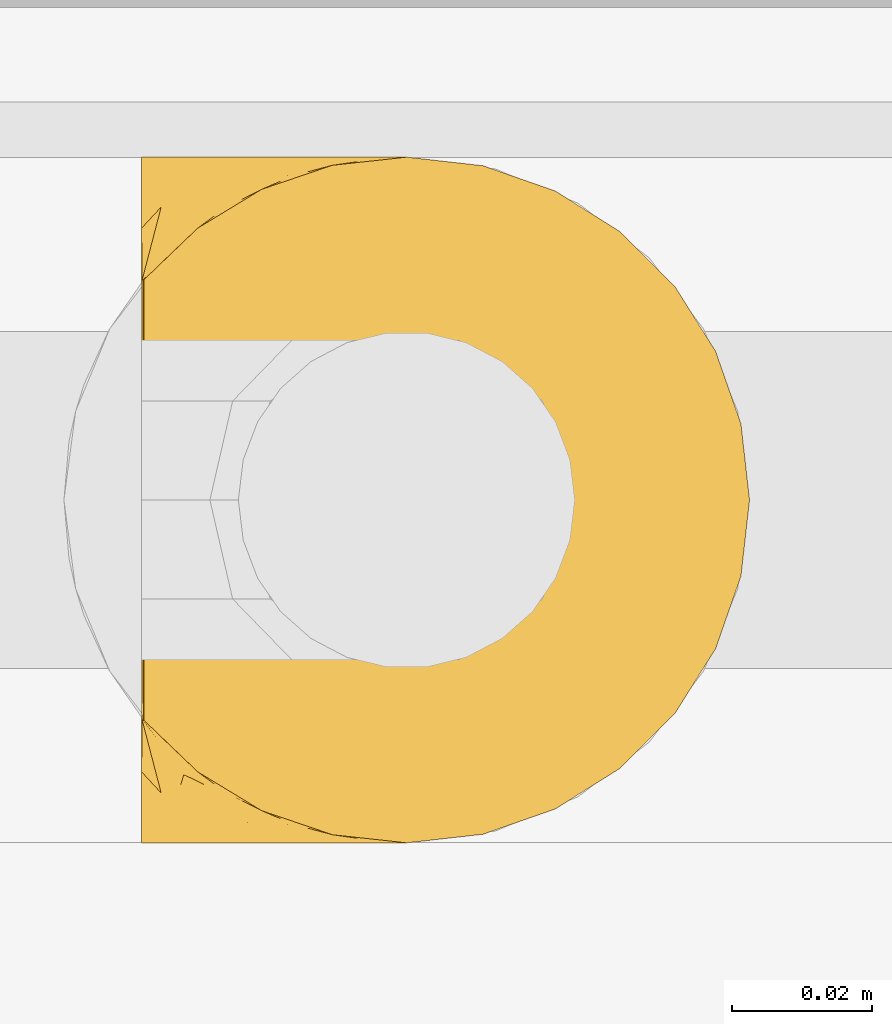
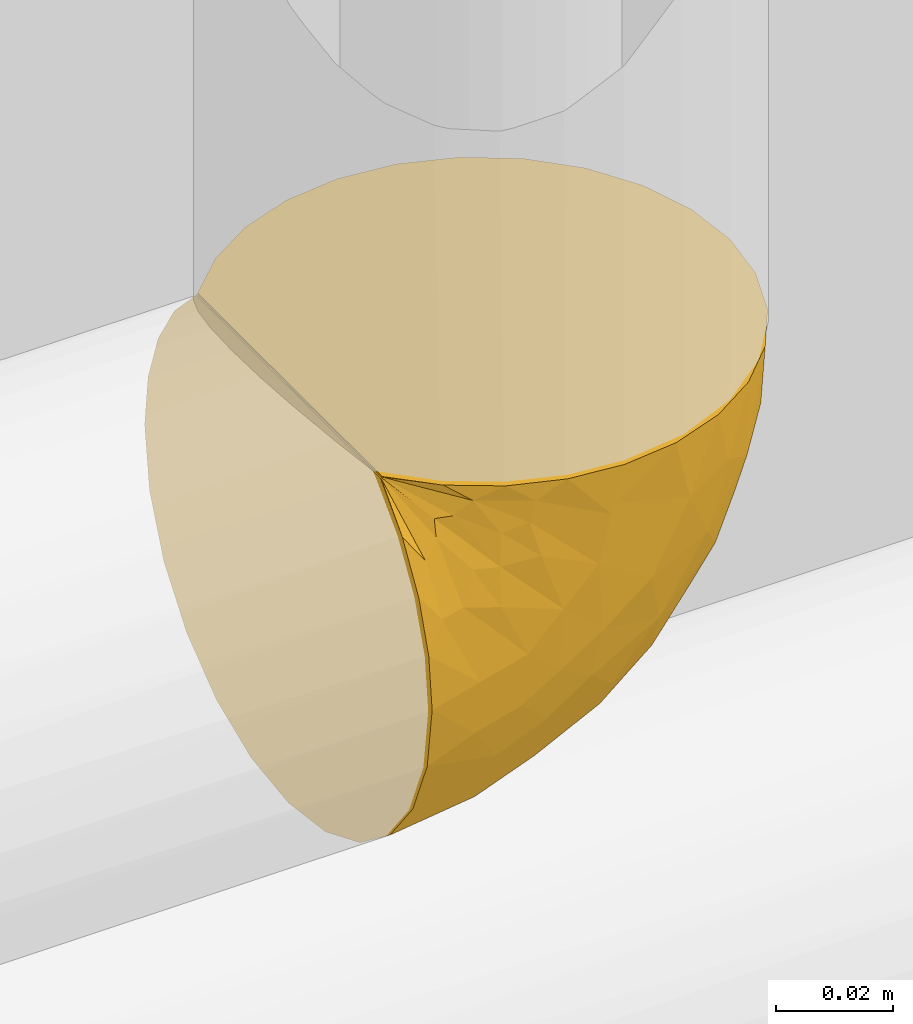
# One storey, part 55 of 94: 1 covering.
"""IFC2X3 building model written with IfcOpenShell, lengths in millimetres."""

from ifc_helpers import new_model, entity, si_unit, converted_unit, derived_unit, direction, frame, origin, place, context, subcontext, project, spatial, faceted_brep, material, element, save


model = new_model("IFC2X3")

# Units and contexts
model_context = context("Model", 3, precision=0.01, world=origin(), true_north=direction((6.123031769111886e-17, 1.0)))
body_context = subcontext(model_context, "Body", "Model", "MODEL_VIEW")
ifc_project = project(units=[si_unit("LENGTHUNIT", "METRE", prefix="MILLI"), si_unit("AREAUNIT", "SQUARE_METRE"), si_unit("VOLUMEUNIT", "CUBIC_METRE"), converted_unit("PLANEANGLEUNIT", "DEGREE", entity("IfcRatioMeasure", 0.017453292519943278), si_unit("PLANEANGLEUNIT", "RADIAN"), dimensions=[0, 0, 0, 0, 0, 0, 0]), si_unit("MASSUNIT", "GRAM", prefix="KILO"), derived_unit("MASSDENSITYUNIT", [(si_unit("MASSUNIT", "GRAM", prefix="KILO"), 1), (si_unit("LENGTHUNIT", "METRE"), -3)]), derived_unit("IONCONCENTRATIONUNIT", [(si_unit("MASSUNIT", "GRAM", prefix="KILO"), 1), (si_unit("LENGTHUNIT", "METRE"), -3)]), derived_unit("MOMENTOFINERTIAUNIT", [(si_unit("LENGTHUNIT", "METRE"), 4)]), si_unit("TIMEUNIT", "SECOND"), si_unit("FREQUENCYUNIT", "HERTZ"), si_unit("THERMODYNAMICTEMPERATUREUNIT", "DEGREE_CELSIUS"), derived_unit("THERMALTRANSMITTANCEUNIT", [(si_unit("MASSUNIT", "GRAM", prefix="KILO"), 1), (si_unit("THERMODYNAMICTEMPERATUREUNIT", "KELVIN"), -1), (si_unit("TIMEUNIT", "SECOND"), -3)]), derived_unit("THERMALCONDUCTANCEUNIT", [(si_unit("MASSUNIT", "GRAM", prefix="KILO"), 1), (si_unit("THERMODYNAMICTEMPERATUREUNIT", "KELVIN"), -1), (si_unit("TIMEUNIT", "SECOND"), -3), (si_unit("LENGTHUNIT", "METRE"), 1)]), derived_unit("VOLUMETRICFLOWRATEUNIT", [(si_unit("LENGTHUNIT", "METRE"), 3), (si_unit("TIMEUNIT", "SECOND"), -1)]), derived_unit("MASSFLOWRATEUNIT", [(si_unit("MASSUNIT", "GRAM", prefix="KILO"), 1), (si_unit("TIMEUNIT", "SECOND"), -1)]), derived_unit("ROTATIONALFREQUENCYUNIT", [(si_unit("TIMEUNIT", "SECOND"), -1)]), si_unit("ELECTRICCURRENTUNIT", "AMPERE"), si_unit("ELECTRICVOLTAGEUNIT", "VOLT"), si_unit("POWERUNIT", "WATT"), si_unit("FORCEUNIT", "NEWTON", prefix="KILO"), si_unit("ILLUMINANCEUNIT", "LUX"), si_unit("LUMINOUSFLUXUNIT", "LUMEN"), si_unit("LUMINOUSINTENSITYUNIT", "CANDELA"), derived_unit("USERDEFINED", [(si_unit("MASSUNIT", "GRAM", prefix="KILO"), -1), (si_unit("LENGTHUNIT", "METRE"), -2), (si_unit("TIMEUNIT", "SECOND"), 3), (si_unit("LUMINOUSFLUXUNIT", "LUMEN"), 1)]), derived_unit("USERDEFINED", [(si_unit("MASSUNIT", "GRAM", prefix="KILO"), 1), (si_unit("TIMEUNIT", "SECOND"), -3), (si_unit("LENGTHUNIT", "METRE"), 3), (si_unit("ELECTRICCURRENTUNIT", "AMPERE"), -2)]), derived_unit("SOUNDPOWERUNIT", [(si_unit("MASSUNIT", "GRAM", prefix="KILO"), 1), (si_unit("TIMEUNIT", "SECOND"), -3), (si_unit("LENGTHUNIT", "METRE"), 2)]), derived_unit("SOUNDPRESSUREUNIT", [(si_unit("MASSUNIT", "GRAM", prefix="KILO"), 1), (si_unit("LENGTHUNIT", "METRE"), -1), (si_unit("TIMEUNIT", "SECOND"), -2)]), derived_unit("LINEARVELOCITYUNIT", [(si_unit("LENGTHUNIT", "METRE"), 1), (si_unit("TIMEUNIT", "SECOND"), -1)]), si_unit("PRESSUREUNIT", "PASCAL"), derived_unit("USERDEFINED", [(si_unit("MASSUNIT", "GRAM", prefix="KILO"), 1), (si_unit("LENGTHUNIT", "METRE"), -2), (si_unit("TIMEUNIT", "SECOND"), -2)]), derived_unit("LINEARFORCEUNIT", [(si_unit("MASSUNIT", "GRAM", prefix="KILO"), 1), (si_unit("TIMEUNIT", "SECOND"), -2)]), derived_unit("PLANARFORCEUNIT", [(si_unit("MASSUNIT", "GRAM", prefix="KILO"), 1), (si_unit("LENGTHUNIT", "METRE"), -1), (si_unit("TIMEUNIT", "SECOND"), -2)]), derived_unit("SPECIFICHEATCAPACITYUNIT", [(si_unit("THERMODYNAMICTEMPERATUREUNIT", "KELVIN"), -1), (si_unit("LENGTHUNIT", "METRE"), 2), (si_unit("TIMEUNIT", "SECOND"), -2)]), derived_unit("HEATINGVALUEUNIT", [(si_unit("LENGTHUNIT", "METRE"), 2), (si_unit("TIMEUNIT", "SECOND"), -2)]), derived_unit("VAPORPERMEABILITYUNIT", [(si_unit("LENGTHUNIT", "METRE"), -1), (si_unit("TIMEUNIT", "SECOND"), 1)]), derived_unit("DYNAMICVISCOSITYUNIT", [(si_unit("MASSUNIT", "GRAM", prefix="KILO"), 1), (si_unit("TIMEUNIT", "SECOND"), -1), (si_unit("LENGTHUNIT", "METRE"), -1)]), derived_unit("THERMALEXPANSIONCOEFFICIENTUNIT", [(si_unit("THERMODYNAMICTEMPERATUREUNIT", "KELVIN"), -1)]), derived_unit("MODULUSOFELASTICITYUNIT", [(si_unit("MASSUNIT", "GRAM", prefix="KILO"), 1), (si_unit("LENGTHUNIT", "METRE"), -1), (si_unit("TIMEUNIT", "SECOND"), -2)]), derived_unit("ISOTHERMALMOISTURECAPACITYUNIT", [(si_unit("LENGTHUNIT", "METRE"), 3), (si_unit("MASSUNIT", "GRAM", prefix="KILO"), -1)]), derived_unit("MOISTUREDIFFUSIVITYUNIT", [(si_unit("TIMEUNIT", "SECOND"), -1), (si_unit("LENGTHUNIT", "METRE"), 2)])], contexts=[model_context])

# Site, building, storey
site_placement = place(None, origin())
site = spatial("IfcSite", under=ifc_project, at=site_placement, Name="Default", CompositionType="ELEMENT")
building_placement = place(site_placement, origin())
building = spatial("IfcBuilding", under=site, at=building_placement, CompositionType="ELEMENT")
storey_placement = place(building_placement, origin())
storey = spatial("IfcBuildingStorey", under=building, at=storey_placement, Name="Niveau 0", CompositionType="ELEMENT", Elevation=0.0)

# Covering
ifc_material = material(Name="Isolation - Laine minérale")
covering_placement = place(storey_placement, frame((-6498.767585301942, 9976.100352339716, 2799.2547277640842)))
element("IfcCovering", 1, at=covering_placement, inside=storey, material=ifc_material, Name="Isolation des canalisations:Laine minérale", ObjectType="Isolation des canalisations:Laine minérale", PredefinedType="INSULATION", context=body_context, shape_type="Brep", body=[
    faceted_brep([(60.92840990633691, 6.466386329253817, 88.74527223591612), (70.2472924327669, 12.324234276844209, 88.74527223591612), (78.02799613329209, 20.107905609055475, 88.74527223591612), (83.88131648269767, 29.426998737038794, 88.74527223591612), (87.51440414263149, 39.81461364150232, 88.74527223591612), (88.74527223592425, 50.74527223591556, 88.74527223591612), (87.51173151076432, 61.68764083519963, 88.74527223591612), (83.8741581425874, 72.0784099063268, 88.74527223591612), (78.01631019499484, 81.39729243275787, 88.74527223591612), (70.23263886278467, 89.17799613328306, 88.74527223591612), (60.913545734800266, 95.03131648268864, 88.74527223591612), (50.52593083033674, 98.66440414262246, 88.74527223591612), (39.59527223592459, 99.89527223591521, 88.74527223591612), (28.93618624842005, 98.72554303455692, 88.74527223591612), (18.787971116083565, 95.27367575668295, 88.74527223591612), (9.631578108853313, 89.70550239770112, 88.74527223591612), (1.908891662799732, 82.29617110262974, 88.74527223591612), (1.908891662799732, 79.85190220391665, 88.74527223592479), (1.908891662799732, 78.07484973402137, 88.74527223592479), (1.908891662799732, 76.29779726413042, 88.74527223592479), (1.908891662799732, 74.79820380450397, 88.74527223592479), (1.908891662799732, 73.29861034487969, 88.74527223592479), (1.908891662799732, 70.29942342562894, 88.74527223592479), (1.908891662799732, 67.30023650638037, 88.74527223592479), (1.908891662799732, 64.30104958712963, 88.74527223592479), (1.908891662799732, 61.301862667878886, 88.74527223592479), (1.908891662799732, 59.8022692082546, 88.74527223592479), (1.908891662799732, 58.302675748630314, 88.74527223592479), (1.908891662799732, 55.858406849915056, 88.74527223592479), (1.908891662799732, 53.4141379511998, 88.74527223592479), (1.908891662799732, 50.96986905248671, 88.74527223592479), (1.908891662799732, 48.52560015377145, 88.74527223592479), (1.908891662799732, 46.08133125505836, 88.74527223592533), (1.908891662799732, 43.6370623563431, 88.74527223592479), (1.908891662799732, 41.19279345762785, 88.74527223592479), (1.908891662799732, 38.74852455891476, 88.74527223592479), (1.908891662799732, 36.30425566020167, 88.74527223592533), (1.908891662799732, 33.85998676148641, 88.74527223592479), (1.908891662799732, 31.415717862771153, 88.74527223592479), (1.908891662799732, 28.971448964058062, 88.74527223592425), (1.908891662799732, 26.52718006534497, 88.74527223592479), (1.908891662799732, 24.082911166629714, 88.74527223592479), (1.908891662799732, 21.63864226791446, 88.74527223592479), (1.908891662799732, 19.19437336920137, 88.74527223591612), (9.648191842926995, 11.77227035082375, 88.74527223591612), (18.809406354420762, 6.206858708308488, 88.74527223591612), (28.956643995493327, 2.7604612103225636, 88.74527223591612), (39.59527223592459, 1.5952722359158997, 88.74527223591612), (50.53764083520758, 2.8288129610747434, 88.74527223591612), (1.5952722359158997, 89.71348765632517, 80.69858068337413), (1.5952722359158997, 95.27868204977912, 71.54185633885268), (1.5952722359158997, 98.72724589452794, 61.3966901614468), (1.5952722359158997, 99.89527223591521, 50.7452722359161), (1.5952722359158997, 98.22052659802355, 38.0243161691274), (1.5952722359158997, 93.31042083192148, 26.17027223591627), (1.5952722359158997, 85.49957053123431, 15.990973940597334), (1.5952722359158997, 75.32027223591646, 8.180123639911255), (1.5952722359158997, 63.46622830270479, 3.2700178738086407), (1.5952722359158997, 50.74527223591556, 1.5952722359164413), (1.5952722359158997, 38.02431616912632, 3.2700178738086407), (1.5952722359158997, 26.17027223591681, 8.180123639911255), (1.5952722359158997, 15.990973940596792, 15.990973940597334), (1.5952722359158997, 8.180123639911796, 26.17027223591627), (1.5952722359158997, 3.270017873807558, 38.0243161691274), (1.5952722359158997, 1.5952722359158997, 50.7452722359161), (1.5952722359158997, 2.763298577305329, 61.39669016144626), (1.5952722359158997, 6.211862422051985, 71.54185633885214), (1.5952722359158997, 11.777056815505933, 80.69858068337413), (1.5952722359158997, 19.19437336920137, 88.43165280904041), (1.5952722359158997, 21.638642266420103, 88.43165280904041), (1.5952722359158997, 23.138235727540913, 88.43165280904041), (1.5952722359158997, 25.1101669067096, 88.43165280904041), (1.5952722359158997, 27.082098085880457, 88.43165280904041), (1.5952722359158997, 29.054029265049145, 88.43165280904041), (1.5952722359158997, 31.02596044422, 88.43165280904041), (1.5952722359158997, 32.99789162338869, 88.43165280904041), (1.5952722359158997, 34.96982280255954, 88.43165280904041), (1.5952722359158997, 36.94175398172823, 88.43165280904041), (1.5952722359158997, 38.913685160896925, 88.43165280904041), (1.5952722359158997, 40.88561634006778, 88.43165280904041), (1.5952722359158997, 42.85754751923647, 88.43165280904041), (1.5952722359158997, 44.82947869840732, 88.43165280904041), (1.5952722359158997, 46.80140987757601, 88.43165280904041), (1.5952722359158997, 48.773341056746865, 88.43165280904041), (1.5952722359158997, 50.74527223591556, 88.43165280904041), (1.5952722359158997, 52.71720341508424, 88.43165280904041), (1.5952722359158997, 54.6891345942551, 88.43165280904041), (1.5952722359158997, 56.661065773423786, 88.43165280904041), (1.5952722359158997, 58.632996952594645, 88.43165280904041), (1.5952722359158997, 60.60492813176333, 88.43165280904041), (1.5952722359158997, 62.57685931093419, 88.43165280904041), (1.5952722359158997, 64.54879049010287, 88.43165280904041), (1.5952722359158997, 66.52072166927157, 88.43165280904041), (1.5952722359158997, 69.51990859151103, 88.43165280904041), (1.5952722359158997, 72.51909551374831, 88.43165280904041), (1.5952722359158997, 74.9633644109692, 88.43165280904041), (1.5952722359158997, 77.40763330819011, 88.43165280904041), (1.5952722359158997, 79.85190220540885, 88.43165280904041), (1.5952722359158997, 82.29617110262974, 88.43165280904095), (1.809643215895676, 47.7372047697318, 88.51635690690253), (1.8184361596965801, 49.65777912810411, 88.52492022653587), (1.8193226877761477, 40.017642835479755, 88.52582169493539), (1.8127644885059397, 37.92771907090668, 88.51932032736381), (1.7996191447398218, 53.48951745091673, 88.50736577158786), (1.8054799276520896, 24.2405504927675, 88.51252801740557), (1.8492387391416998, 20.79140612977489, 88.56126636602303), (1.8224415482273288, 59.05247302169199, 88.52905186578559), (1.817034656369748, 78.62976787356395, 88.5235098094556), (1.8150629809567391, 76.79032803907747, 88.5215555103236), (1.824011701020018, 30.120454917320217, 88.53071361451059), (1.8138012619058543, 28.086705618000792, 88.52032288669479), (1.8358544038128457, 57.08054182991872, 88.54408236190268), (1.810897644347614, 63.562825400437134, 88.51753811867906), (1.8073683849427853, 61.67745907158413, 88.51424763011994), (1.824691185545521, 65.53475654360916, 88.53144031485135), (1.8114022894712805, 51.73123795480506, 88.51801699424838), (1.8146264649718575, 80.46296948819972, 88.5211274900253), (1.8038954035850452, 45.815443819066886, 88.51110665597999), (1.8030656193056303, 33.98385679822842, 88.51037001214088), (1.8078125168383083, 35.87599747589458, 88.51465616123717), (1.8062814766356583, 67.38596354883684, 88.51325446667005), (1.8068444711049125, 43.93836928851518, 88.51376773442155), (1.8170346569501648, 22.388438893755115, 88.52350981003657), (1.8056127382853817, 26.096132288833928, 88.51264803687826), (1.8170346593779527, 19.19437336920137, 88.52350981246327), (1.845664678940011, 19.19437336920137, 88.59262879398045), (1.8742946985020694, 19.1943733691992, 88.66174777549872), (1.8170346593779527, 82.29617110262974, 88.52350981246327), (1.7479156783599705, 82.29617110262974, 88.49487979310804), (1.6787966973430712, 82.29617110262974, 88.4662497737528), (1.8305380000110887, 69.27838714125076, 88.5378905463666), (1.8101196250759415, 32.054952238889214, 88.5168039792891), (1.8180768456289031, 55.24225649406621, 88.52455691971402), (1.8158402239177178, 41.99993111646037, 88.52232177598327), (1.8347511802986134, 72.07129245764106, 88.54277043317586), (1.8131030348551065, 74.04840730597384, 88.51964668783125), (1.6787966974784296, 19.19437336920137, 88.46624977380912), (1.7479156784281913, 19.194373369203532, 88.49487979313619), (1.8742946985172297, 82.29617110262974, 88.66174777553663), (1.8456646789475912, 82.29617110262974, 88.59262879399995), (5.119742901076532, 97.28026065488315, 66.84532494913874), (4.404433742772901, 92.74636463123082, 76.59278810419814), (9.262466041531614, 97.28026068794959, 67.93076460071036), (7.207652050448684, 91.53496062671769, 79.77802179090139), (11.095272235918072, 99.89527223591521, 53.290789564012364), (9.051642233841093, 99.89527223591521, 52.74320055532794), (34.50423757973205, 99.89527223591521, 69.74527223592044), (23.94501445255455, 98.55504664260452, 74.32039473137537), (22.40014043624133, 97.27709237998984, 81.07886680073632), (20.595272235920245, 99.89527223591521, 55.83630689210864), (9.666760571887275, 92.08523869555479, 80.67264697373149), (10.551623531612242, 91.52705697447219, 83.13763204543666), (16.01945088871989, 98.554902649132, 66.39579772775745), (23.485838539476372, 97.27709230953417, 85.22115378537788), (13.737180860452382, 92.73988957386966, 85.93765126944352), (10.691425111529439, 95.7999166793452, 72.79903813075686), (37.59734395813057, 99.89527223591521, 81.28890239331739), (37.049754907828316, 99.89527223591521, 79.24527223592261), (16.728859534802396, 97.00792481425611, 73.61168502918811), (27.549754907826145, 99.89527223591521, 62.79078956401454), (16.460659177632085, 95.72448717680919, 78.26898539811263), (15.011407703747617, 98.87881941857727, 42.71659351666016), (24.42980261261, 98.83301276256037, 46.33910334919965), (36.49293031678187, 90.35896612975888, 31.440845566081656), (31.204032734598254, 80.66589656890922, 17.672829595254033), (19.174422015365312, 89.73858973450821, 23.1389879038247), (23.335091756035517, 96.15395204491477, 36.26070217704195), (11.460031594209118, 96.15395161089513, 32.79943692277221), (52.82075697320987, 50.74527223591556, 18.239441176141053), (28.52610329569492, 50.74527223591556, 5.860696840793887), (36.46534309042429, 61.15080493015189, 10.09253095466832), (64.55560047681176, 92.36630119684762, 76.48910815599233), (54.096361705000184, 97.13949915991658, 75.175259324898), (60.7776621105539, 68.84359020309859, 29.562886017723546), (59.569862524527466, 77.72163513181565, 34.954708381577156), (75.0483217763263, 65.87522637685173, 46.443169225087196), (19.026686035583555, 59.79441061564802, 4.214063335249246), (43.09951705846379, 70.98072673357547, 17.108860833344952), (46.8366514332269, 79.74211405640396, 25.593158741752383), (15.050691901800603, 80.66589650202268, 12.936813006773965), (23.237814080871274, 69.55416171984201, 8.193374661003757), (53.24134352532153, 85.50619835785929, 37.51142897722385), (45.825367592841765, 91.9808411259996, 41.46157905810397), (56.63576814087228, 90.08477530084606, 49.733323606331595), (46.288849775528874, 97.76701228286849, 61.57059128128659), (60.29646320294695, 92.3663016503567, 62.89209880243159), (72.02820629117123, 85.50619671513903, 70.54017915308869), (84.47984763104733, 50.74527223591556, 61.81444117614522), (83.29913826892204, 66.98519337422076, 67.62492254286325), (64.72607481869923, 82.954609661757, 48.02305876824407), (74.45362859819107, 76.90235033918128, 56.65671676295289), (79.74013519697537, 76.90235057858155, 73.53357104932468), (51.83676030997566, 62.41468564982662, 19.26196392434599), (64.99536385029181, 59.14435954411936, 30.0080526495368), (37.17704034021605, 98.92729244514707, 56.96722300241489), (72.10110329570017, 50.74527223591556, 37.51978749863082), (37.64584570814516, 96.76809515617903, 46.87511479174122), (32.164652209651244, 31.936383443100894, 11.140369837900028), (18.639631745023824, 41.905436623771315, 4.095656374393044), (35.766211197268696, 41.6251186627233, 9.502474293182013), (47.842493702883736, 35.352647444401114, 17.812384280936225), (15.27818958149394, 31.93638226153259, 6.46656563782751), (65.81540325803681, 15.99722250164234, 54.5418837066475), (64.5542018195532, 22.501954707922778, 42.32008170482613), (74.46231326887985, 24.603113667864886, 56.65317707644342), (53.25075234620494, 15.997599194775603, 37.50209525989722), (54.627182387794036, 23.203879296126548, 30.584563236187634), (54.10903567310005, 4.355753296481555, 75.17052823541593), (19.802502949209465, 2.5375085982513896, 44.78912737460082), (20.595272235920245, 1.5952722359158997, 55.83630689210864), (11.095272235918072, 1.5952722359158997, 53.290789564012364), (83.30424504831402, 34.51880576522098, 67.62586672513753), (21.09968330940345, 20.82464795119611, 14.26340359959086), (60.31003237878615, 9.133617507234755, 62.885892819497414), (64.57029925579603, 9.133617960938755, 76.48653547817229), (13.465140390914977, 11.751955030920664, 21.86988563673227), (16.335810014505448, 5.3365926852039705, 33.88211097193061), (41.93007422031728, 21.86570570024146, 22.251999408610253), (27.71501397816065, 11.751954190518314, 26.04782376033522), (59.119767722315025, 41.9823852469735, 24.3292880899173), (60.78019907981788, 32.65601578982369, 29.560349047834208), (10.513874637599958, 2.4779094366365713, 42.32143211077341), (79.74926997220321, 24.603113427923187, 73.53143463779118), (75.05329716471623, 35.63402191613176, 46.439690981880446), (72.04103767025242, 15.997600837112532, 70.53686254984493), (46.290673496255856, 3.72665943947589, 61.55381762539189), (34.50423757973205, 1.5952722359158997, 69.74527223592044), (36.10518198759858, 2.7012349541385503, 54.85547791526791), (27.549754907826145, 1.5952722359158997, 62.79078956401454), (37.59734395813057, 1.5952722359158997, 81.28890239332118), (37.049754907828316, 1.5952722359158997, 79.24527223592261), (41.92842909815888, 9.986684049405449, 37.177632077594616), (26.19749743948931, 5.063713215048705, 38.287459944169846), (50.23414181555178, 8.340625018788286, 48.939507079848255), (27.449810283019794, 2.4071726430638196, 49.619322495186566), (42.66776613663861, 15.399468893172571, 29.42376899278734), (34.950986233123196, 4.812375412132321, 44.39993285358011), (9.262466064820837, 4.210284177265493, 67.93076584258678), (12.074879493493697, 5.763920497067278, 73.87629022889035), (16.019815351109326, 2.9358860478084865, 66.39725193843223), (5.119743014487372, 4.210284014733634, 66.84532555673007), (4.404433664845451, 8.74418018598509, 76.59278866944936), (7.207972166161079, 9.954133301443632, 79.77567656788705), (7.658564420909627, 11.377788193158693, 82.68391989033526), (16.72348065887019, 4.485349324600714, 73.61706313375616), (10.58277305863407, 9.940890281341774, 83.12402653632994), (22.4220908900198, 4.2062740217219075, 81.07735934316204), (23.507196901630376, 4.206273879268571, 85.22095110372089), (13.756054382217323, 8.739069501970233, 85.93466595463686), (23.942836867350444, 2.9361309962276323, 74.32191718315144), (17.55671847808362, 5.684713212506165, 79.64839749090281)], [[[0, 1, 2, 3, 4, 5, 6, 7, 8, 9, 10, 11, 12, 13, 14, 15, 16, 17, 18, 19, 20, 21, 22, 23, 24, 25, 26, 27, 28, 29, 30, 31, 32, 33, 34, 35, 36, 37, 38, 39, 40, 41, 42, 43, 44, 45, 46, 47, 48]], [[49, 50, 51, 52, 53, 54, 55, 56, 57, 58, 59, 60, 61, 62, 63, 64, 65, 66, 67, 68, 69, 70, 71, 72, 73, 74, 75, 76, 77, 78, 79, 80, 81, 82, 83, 84, 85, 86, 87, 88, 89, 90, 91, 92, 93, 94, 95, 96, 97, 98]], [[99, 100, 83]], [[101, 102, 35]], [[85, 103, 86]], [[71, 70, 104]], [[105, 69, 68]], [[27, 26, 106]], [[18, 107, 108]], [[109, 73, 110]], [[28, 27, 111]], [[25, 112, 113]], [[108, 96, 95]], [[114, 92, 91]], [[103, 85, 115]], [[96, 107, 97]], [[107, 17, 116]], [[78, 102, 101]], [[99, 117, 32]], [[76, 118, 119]], [[120, 92, 114]], [[112, 90, 113]], [[88, 111, 106]], [[40, 39, 110]], [[107, 96, 108]], [[32, 117, 121]], [[91, 90, 112]], [[37, 119, 118]], [[84, 115, 85]], [[69, 105, 122]], [[71, 123, 72]], [[105, 124, 125, 126, 43]], [[116, 17, 16]], [[122, 70, 69]], [[41, 122, 42]], [[18, 17, 107]], [[116, 127, 128, 129, 98]], [[110, 123, 40]], [[42, 122, 105]], [[120, 23, 130]], [[24, 114, 112]], [[114, 24, 23]], [[104, 123, 71]], [[91, 112, 114]], [[104, 122, 41]], [[24, 112, 25]], [[110, 72, 123]], [[36, 119, 37]], [[40, 123, 41]], [[74, 73, 109]], [[131, 75, 74]], [[118, 131, 37]], [[109, 110, 39]], [[109, 39, 38]], [[73, 72, 110]], [[123, 104, 41]], [[122, 104, 70]], [[26, 25, 113]], [[113, 89, 106]], [[87, 86, 132]], [[113, 106, 26]], [[76, 75, 118]], [[132, 111, 87]], [[106, 111, 27]], [[132, 28, 111]], [[87, 111, 88]], [[88, 106, 89]], [[113, 90, 89]], [[131, 118, 75]], [[38, 37, 131]], [[119, 36, 102]], [[131, 109, 38]], [[109, 131, 74]], [[78, 77, 102]], [[77, 119, 102]], [[77, 76, 119]], [[121, 80, 133]], [[36, 35, 102]], [[33, 121, 133]], [[79, 78, 101]], [[34, 101, 35]], [[132, 29, 28]], [[80, 79, 133]], [[29, 103, 115]], [[30, 29, 115]], [[86, 103, 132]], [[100, 115, 84]], [[31, 30, 100]], [[115, 100, 30]], [[32, 31, 99]], [[117, 81, 121]], [[100, 84, 83]], [[99, 82, 117]], [[81, 117, 82]], [[33, 32, 121]], [[82, 99, 83]], [[100, 99, 31]], [[34, 33, 133]], [[121, 81, 80]], [[133, 101, 34]], [[101, 133, 79]], [[134, 94, 93]], [[23, 120, 114]], [[132, 103, 29]], [[120, 93, 92]], [[93, 120, 130]], [[97, 107, 116]], [[108, 20, 19, 18]], [[21, 135, 134]], [[20, 135, 21]], [[134, 135, 94]], [[108, 95, 135]], [[108, 135, 20]], [[135, 95, 94]], [[134, 22, 21]], [[130, 22, 134]], [[42, 105, 43]], [[105, 68, 136, 137, 124]], [[97, 116, 98]], [[116, 16, 138, 139, 127]], [[93, 130, 134]], [[22, 130, 23]], [[140, 141, 142]], [[143, 129, 128, 127]], [[51, 144, 145, 52]], [[146, 147, 148]], [[142, 149, 144]], [[150, 127, 151]], [[50, 140, 51]], [[142, 152, 149]], [[51, 140, 144]], [[129, 143, 141]], [[14, 13, 153]], [[148, 151, 154]], [[155, 141, 143]], [[151, 138, 154]], [[14, 153, 154]], [[16, 15, 138]], [[13, 12, 156, 157]], [[152, 155, 158]], [[159, 158, 147]], [[157, 148, 153]], [[14, 154, 15]], [[49, 98, 129]], [[49, 129, 141]], [[141, 50, 49]], [[160, 148, 147]], [[146, 148, 157]], [[138, 15, 154]], [[150, 158, 155]], [[151, 127, 139, 138]], [[141, 140, 50]], [[144, 140, 142]], [[157, 153, 13]], [[154, 153, 148]], [[149, 152, 159]], [[160, 147, 158]], [[147, 146, 159]], [[155, 152, 142]], [[159, 152, 158]], [[127, 150, 143]], [[160, 150, 151]], [[150, 160, 158]], [[148, 160, 151]], [[141, 155, 142]], [[155, 143, 150]], [[156, 12, 11]], [[161, 149, 162]], [[163, 164, 165]], [[166, 167, 161]], [[168, 169, 170]], [[54, 165, 55]], [[171, 172, 10]], [[173, 174, 175]], [[57, 176, 58]], [[173, 177, 178]], [[179, 56, 55]], [[54, 167, 165]], [[170, 180, 177]], [[56, 179, 180]], [[167, 54, 53]], [[181, 182, 183]], [[184, 146, 172]], [[172, 185, 184]], [[186, 185, 171]], [[186, 9, 8]], [[172, 146, 157, 156]], [[172, 11, 10]], [[173, 178, 174]], [[6, 187, 188]], [[189, 186, 190]], [[191, 186, 8]], [[175, 190, 188]], [[168, 192, 193]], [[189, 190, 174]], [[56, 180, 57]], [[8, 7, 191]], [[188, 7, 6]], [[6, 5, 187]], [[190, 191, 188]], [[159, 194, 162]], [[175, 187, 195]], [[177, 180, 164]], [[10, 9, 171]], [[176, 180, 170]], [[156, 11, 172]], [[163, 165, 166]], [[179, 165, 164]], [[53, 52, 145]], [[185, 189, 183]], [[184, 196, 194]], [[188, 191, 7]], [[186, 191, 190]], [[186, 171, 9]], [[172, 171, 185]], [[187, 175, 188]], [[193, 175, 195]], [[196, 163, 166]], [[163, 181, 178]], [[162, 166, 161]], [[184, 185, 183]], [[178, 177, 164]], [[177, 192, 170]], [[177, 173, 192]], [[176, 170, 169]], [[58, 176, 169]], [[57, 180, 176]], [[193, 192, 173]], [[168, 170, 192]], [[175, 193, 173]], [[168, 193, 195]], [[163, 178, 164]], [[184, 194, 146]], [[178, 181, 174]], [[189, 174, 181]], [[175, 174, 190]], [[183, 189, 181]], [[186, 189, 185]], [[182, 181, 163]], [[183, 182, 184]], [[163, 196, 182]], [[184, 182, 196]], [[165, 179, 55]], [[180, 179, 164]], [[161, 53, 145]], [[165, 167, 166]], [[53, 161, 167]], [[161, 145, 144, 149]], [[159, 162, 149]], [[196, 166, 162]], [[162, 194, 196]], [[146, 194, 159]], [[197, 198, 199]], [[58, 169, 198]], [[197, 199, 200]], [[198, 197, 201]], [[202, 203, 204]], [[60, 59, 201]], [[205, 206, 203]], [[0, 48, 207]], [[208, 209, 210]], [[187, 4, 211]], [[201, 212, 60]], [[213, 214, 207]], [[61, 215, 62]], [[62, 215, 216]], [[3, 211, 4]], [[217, 218, 212]], [[219, 220, 200]], [[216, 208, 221]], [[3, 2, 222]], [[62, 216, 63]], [[61, 60, 212]], [[211, 3, 222]], [[5, 4, 187]], [[217, 197, 200]], [[203, 223, 204]], [[2, 1, 224]], [[225, 213, 207]], [[204, 222, 224]], [[1, 0, 214]], [[204, 224, 202]], [[207, 226, 225]], [[227, 226, 228]], [[223, 211, 204]], [[214, 224, 1]], [[202, 224, 213]], [[48, 47, 229]], [[207, 229, 230, 226]], [[211, 223, 187]], [[218, 231, 232]], [[48, 229, 207]], [[205, 233, 231]], [[233, 213, 225]], [[217, 212, 197]], [[215, 212, 218]], [[228, 234, 227]], [[233, 205, 202]], [[208, 234, 209]], [[63, 221, 64]], [[235, 205, 231]], [[207, 214, 0]], [[224, 214, 213]], [[224, 222, 2]], [[211, 222, 204]], [[219, 223, 220]], [[187, 223, 195]], [[227, 233, 225]], [[234, 228, 209]], [[231, 233, 236]], [[221, 208, 210]], [[232, 208, 216]], [[64, 221, 210]], [[216, 221, 63]], [[233, 202, 213]], [[203, 202, 205]], [[205, 235, 206]], [[223, 203, 220]], [[200, 206, 217]], [[220, 203, 206]], [[232, 231, 236]], [[235, 218, 217]], [[212, 215, 61]], [[216, 215, 218]], [[218, 232, 216]], [[234, 232, 236]], [[232, 234, 208]], [[234, 236, 227]], [[233, 227, 236]], [[226, 227, 225]], [[198, 201, 59]], [[212, 201, 197]], [[58, 198, 59]], [[198, 169, 199]], [[169, 168, 199]], [[219, 200, 199]], [[219, 199, 168]], [[200, 220, 206]], [[168, 195, 219]], [[223, 219, 195]], [[218, 235, 231]], [[206, 235, 217]], [[65, 64, 210]], [[209, 237, 210]], [[238, 237, 239]], [[66, 240, 241]], [[242, 136, 241]], [[243, 137, 242]], [[243, 244, 245]], [[65, 240, 66]], [[136, 68, 67]], [[136, 67, 241]], [[246, 226, 230]], [[66, 241, 67]], [[210, 237, 240]], [[45, 247, 46]], [[209, 239, 237]], [[246, 247, 248]], [[46, 247, 230]], [[249, 250, 244]], [[239, 228, 244]], [[226, 246, 249]], [[250, 248, 245]], [[44, 43, 126]], [[237, 242, 241]], [[248, 45, 44]], [[44, 126, 248]], [[46, 230, 229, 47]], [[245, 126, 125]], [[126, 245, 248]], [[243, 124, 137]], [[210, 240, 65]], [[241, 240, 237]], [[248, 247, 45]], [[230, 247, 246]], [[226, 249, 228]], [[238, 239, 244]], [[239, 209, 228]], [[250, 249, 246]], [[228, 249, 244]], [[243, 242, 238]], [[136, 242, 137]], [[124, 243, 125]], [[125, 243, 245]], [[243, 238, 244]], [[237, 238, 242]], [[248, 250, 246]], [[244, 250, 245]]]),
])

save(model, "model.ifc")
